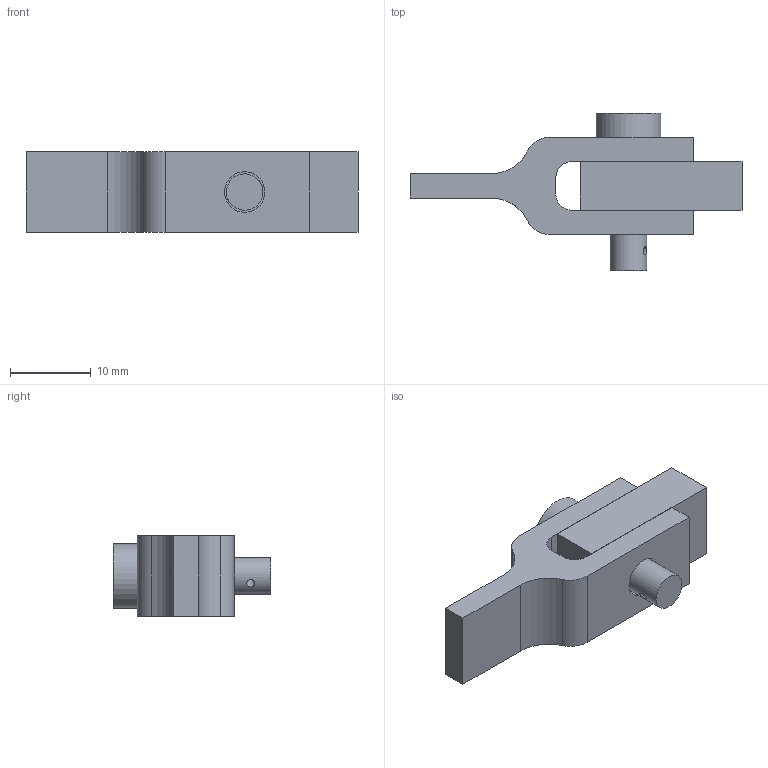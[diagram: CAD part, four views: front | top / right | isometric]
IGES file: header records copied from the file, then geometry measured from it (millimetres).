
Global section: file name: No Iges File Name specified; native system: Autodesk Inventor 2012; preprocessor: AutoDesk Inventor Iges Exporter R2012; author: cadcim; date: 20120229.193911; units: millimetre
Bounding box: 41 x 19.5 x 10 mm (x, y, z)
Volume: 3310.3 mm3; surface area: 2847.3 mm2
Topology: 3 solids, 3 shells, 33 faces, 82 edges, 55 vertices
Faces by surface type: plane 21, revolution 8, cylinder 4
Full cylindrical faces by diameter (mm): 4.5 x1, 8 x1
